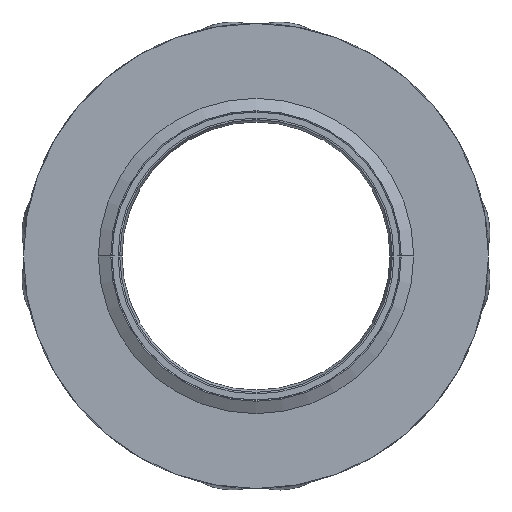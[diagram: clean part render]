
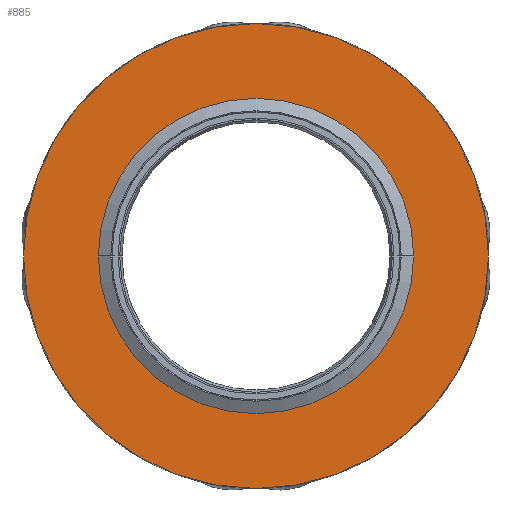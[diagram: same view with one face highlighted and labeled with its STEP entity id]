
A CAD part, front view. The second image highlights one B-rep face of the part: STEP entity #885.
In plain terms, the highlighted planar face has unit normal (0, -1, 0).
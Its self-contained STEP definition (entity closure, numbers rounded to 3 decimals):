
#96 = CIRCLE ( 'NONE', #6784, 14.75 ) ;
#133 = CARTESIAN_POINT ( 'NONE',  ( 5739.587, -2329.376, 0. ) ) ;
#640 = VERTEX_POINT ( 'NONE', #4766 ) ;
#642 = CARTESIAN_POINT ( 'NONE',  ( 5748.837, -2329.376, 0. ) ) ;
#747 = EDGE_LOOP ( 'NONE', ( #4450, #4555 ) ) ;
#881 = DIRECTION ( 'NONE',  ( -1., 0., 0. ) ) ;
#885 = ADVANCED_FACE ( 'NONE', ( #6908, #3700 ), #9519, .F. ) ;
#1311 = DIRECTION ( 'NONE',  ( 0., -1., 0. ) ) ;
#1389 = EDGE_CURVE ( 'NONE', #7506, #1437, #2847, .T. ) ;
#1437 = VERTEX_POINT ( 'NONE', #133 ) ;
#1557 = CARTESIAN_POINT ( 'NONE',  ( 5734.087, -2329.376, 0. ) ) ;
#1659 = AXIS2_PLACEMENT_3D ( 'NONE', #642, #5351, #6159 ) ;
#2847 = CIRCLE ( 'NONE', #1659, 9.25 ) ;
#3453 = EDGE_CURVE ( 'NONE', #4057, #640, #96, .T. ) ;
#3523 = DIRECTION ( 'NONE',  ( 0., -1., 0. ) ) ;
#3548 = AXIS2_PLACEMENT_3D ( 'NONE', #4233, #5754, #8015 ) ;
#3700 = FACE_OUTER_BOUND ( 'NONE', #4721, .T. ) ;
#3928 = EDGE_CURVE ( 'NONE', #640, #4057, #6143, .T. ) ;
#4000 = ORIENTED_EDGE ( 'NONE', *, *, #3453, .T. ) ;
#4037 = EDGE_CURVE ( 'NONE', #1437, #7506, #5406, .T. ) ;
#4057 = VERTEX_POINT ( 'NONE', #6735 ) ;
#4094 = AXIS2_PLACEMENT_3D ( 'NONE', #8285, #3523, #7428 ) ;
#4233 = CARTESIAN_POINT ( 'NONE',  ( 5748.837, -2329.376, 0. ) ) ;
#4450 = ORIENTED_EDGE ( 'NONE', *, *, #1389, .F. ) ;
#4555 = ORIENTED_EDGE ( 'NONE', *, *, #4037, .F. ) ;
#4592 = CARTESIAN_POINT ( 'NONE',  ( 5748.837, -2329.376, 0. ) ) ;
#4721 = EDGE_LOOP ( 'NONE', ( #5723, #4000 ) ) ;
#4766 = CARTESIAN_POINT ( 'NONE',  ( 5763.587, -2329.376, 0. ) ) ;
#4790 = AXIS2_PLACEMENT_3D ( 'NONE', #1557, #5590, #881 ) ;
#5351 = DIRECTION ( 'NONE',  ( 0., -1., 0. ) ) ;
#5406 = CIRCLE ( 'NONE', #4094, 9.25 ) ;
#5590 = DIRECTION ( 'NONE',  ( 0., 1., 0. ) ) ;
#5723 = ORIENTED_EDGE ( 'NONE', *, *, #3928, .T. ) ;
#5754 = DIRECTION ( 'NONE',  ( 0., -1., 0. ) ) ;
#6143 = CIRCLE ( 'NONE', #3548, 14.75 ) ;
#6159 = DIRECTION ( 'NONE',  ( 1., 0., 0. ) ) ;
#6272 = CARTESIAN_POINT ( 'NONE',  ( 5758.087, -2329.376, 0. ) ) ;
#6735 = CARTESIAN_POINT ( 'NONE',  ( 5734.087, -2329.376, 0. ) ) ;
#6784 = AXIS2_PLACEMENT_3D ( 'NONE', #4592, #1311, #10127 ) ;
#6908 = FACE_BOUND ( 'NONE', #747, .T. ) ;
#7428 = DIRECTION ( 'NONE',  ( 1., 0., 0. ) ) ;
#7506 = VERTEX_POINT ( 'NONE', #6272 ) ;
#8015 = DIRECTION ( 'NONE',  ( 1., 0., 0. ) ) ;
#8285 = CARTESIAN_POINT ( 'NONE',  ( 5748.837, -2329.376, 0. ) ) ;
#9519 = PLANE ( 'NONE',  #4790 ) ;
#10127 = DIRECTION ( 'NONE',  ( 1., 0., 0. ) ) ;
